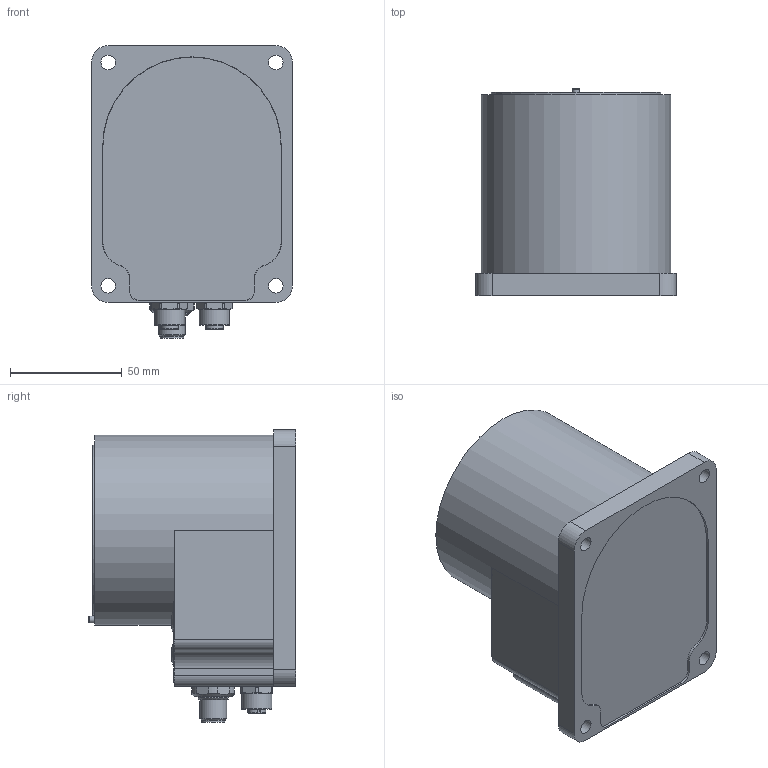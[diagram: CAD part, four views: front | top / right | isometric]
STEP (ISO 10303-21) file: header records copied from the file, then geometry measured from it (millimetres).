
FILE_DESCRIPTION(/* description */ (''),/* implementation_level */ '2;1');
FILE_NAME(/* name */ 'C:\SVN\Mechanical\Meca500\Axis 1 - Base assembly simple.stp',/* time_stamp */ '2017-05-25T07:36:40-04:00',/* author */ ('Jonathan'),/* organization */ (''),/* preprocessor_version */ 'ST-DEVELOPER v16.5',/* originating_system */ 'Autodesk Inventor 2017',/* authorisation */ '');
FILE_SCHEMA (('AUTOMOTIVE_DESIGN { 1 0 10303 214 3 1 1 }'));
Length unit declared in the file: inch
Products named in the file (1): Axis 1 - Base assembly simple
Bounding box: 90 x 93 x 131 mm (x, y, z)
Volume: 679568.3 mm3; surface area: 53473.1 mm2
Topology: 1 solids, 8 shells, 4001 faces, 10792 edges, 7189 vertices
Faces by surface type: plane 2371, bspline 1402, cylinder 192, cone 19, torus 17
Full cylindrical faces by diameter (mm): 1.092 x8, 1.6 x8, 2 x6, 3 x2, 3.251 x2, 6.5 x4, 10.5 x1, 12 x1, 13.525 x2, 76 x1, 85 x1
Entity records: 139339 total; most frequent: CARTESIAN_POINT 44329, ORIENTED_EDGE 21466, DIRECTION 13492, EDGE_CURVE 10733, LINE 7380, VECTOR 7380, VERTEX_POINT 7178, EDGE_LOOP 4439
